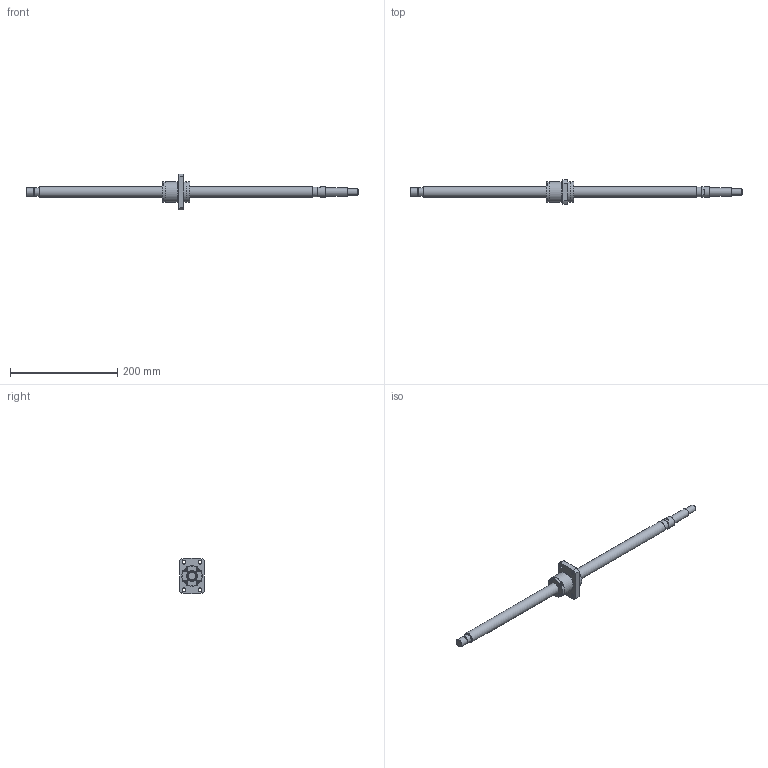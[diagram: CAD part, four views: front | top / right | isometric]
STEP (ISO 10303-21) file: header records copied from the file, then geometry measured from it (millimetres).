
FILE_DESCRIPTION(/* description */ ('STEP AP203'),/* implementation_level */ '2;1');
FILE_NAME(/* name */ 'BNK2020-3.6G0+620LC5Y(2810)',/* time_stamp */ '2024-06-28T21:51:13+02:00',/* author */ ('License CC BY-ND 4.0'),/* organization */ ('CADENAS'),/* preprocessor_version */ 'ST-DEVELOPER v19.3',/* originating_system */ 'PARTsolutions',/* authorisation */ ' ');
FILE_SCHEMA (('CONFIG_CONTROL_DESIGN'));
Length unit declared in the file: millimetre
Products named in the file (3): BNK2020-3.6G0+620LC5Y(2810); BNK 2020-3.6G0+620LC5Y Shaft; BNK 2020-3.6G0+620LC5Y0 Nut
Assembly tree (2 placements, depth 2):
  BNK2020-3.6G0+620LC5Y(2810)
    BNK 2020-3.6G0+620LC5Y Shaft
    BNK 2020-3.6G0+620LC5Y0 Nut
Bounding box: 620 x 46 x 66 mm (x, y, z)
Volume: 239803.2 mm3; surface area: 55648.3 mm2
Topology: 2 solids, 2 shells, 136 faces, 309 edges, 199 vertices
Faces by surface type: plane 75, cylinder 35, cone 20, torus 6
Full cylindrical faces by diameter (mm): 5.188 x1, 5.5 x4, 6.6 x4, 11 x4, 12 x1, 14.3 x1, 15 x3, 18 x1, 19.5 x1, 20 x2, 35.1 x1, 38 x2, 39 x2
Entity records: 3695 total; most frequent: CARTESIAN_POINT 671, DIRECTION 626, ORIENTED_EDGE 528, EDGE_CURVE 264, AXIS2_PLACEMENT_3D 247, FACE_BOUND 210, EDGE_LOOP 209, VERTEX_POINT 196
